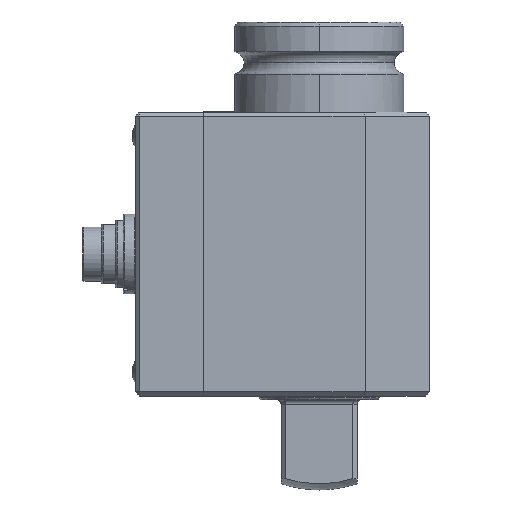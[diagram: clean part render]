
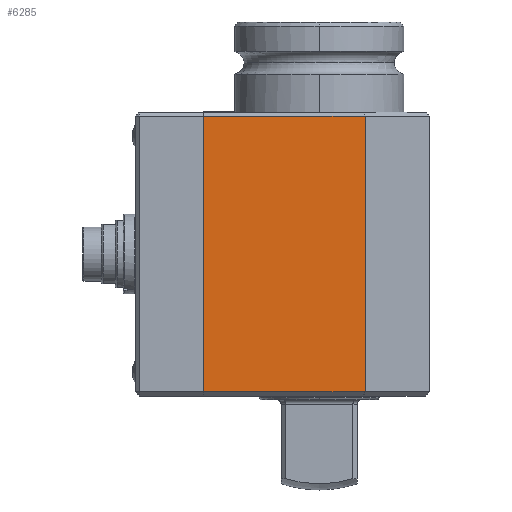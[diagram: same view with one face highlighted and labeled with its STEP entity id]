
A CAD part, left-side view. The second image highlights one B-rep face of the part: STEP entity #6285.
In plain terms, the highlighted planar face has unit normal (-1, 0, 0).
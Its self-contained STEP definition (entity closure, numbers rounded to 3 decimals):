
#323 = CARTESIAN_POINT ( 'NONE',  ( -27.5, 56.5, -70. ) ) ;
#1013 = VERTEX_POINT ( 'NONE', #323 ) ;
#1070 = LINE ( 'NONE', #2018, #8248 ) ;
#1168 = EDGE_LOOP ( 'NONE', ( #5067, #8330, #8088, #5577 ) ) ;
#1178 = CARTESIAN_POINT ( 'NONE',  ( -27.5, 16., -71. ) ) ;
#1564 = VECTOR ( 'NONE', #6688, 1000. ) ;
#1711 = LINE ( 'NONE', #4957, #1564 ) ;
#2018 = CARTESIAN_POINT ( 'NONE',  ( -27.5, 56.5, -1. ) ) ;
#2719 = VECTOR ( 'NONE', #5514, 1000. ) ;
#3007 = VERTEX_POINT ( 'NONE', #7119 ) ;
#3187 = AXIS2_PLACEMENT_3D ( 'NONE', #3670, #3720, #3790 ) ;
#3670 = CARTESIAN_POINT ( 'NONE',  ( -27.5, 16., -71. ) ) ;
#3720 = DIRECTION ( 'NONE',  ( -1., 0., 0. ) ) ;
#3732 = PLANE ( 'NONE',  #3187 ) ;
#3790 = DIRECTION ( 'NONE',  ( 0., -1., 0. ) ) ;
#4957 = CARTESIAN_POINT ( 'NONE',  ( -27.5, 56.5, -71. ) ) ;
#5067 = ORIENTED_EDGE ( 'NONE', *, *, #6575, .F. ) ;
#5514 = DIRECTION ( 'NONE',  ( 0., 0., 1. ) ) ;
#5574 = LINE ( 'NONE', #1178, #2719 ) ;
#5577 = ORIENTED_EDGE ( 'NONE', *, *, #8739, .T. ) ;
#6285 = ADVANCED_FACE ( 'NONE', ( #6767 ), #3732, .T. ) ;
#6372 = CARTESIAN_POINT ( 'NONE',  ( -27.5, 16., -70. ) ) ;
#6448 = CARTESIAN_POINT ( 'NONE',  ( -27.5, 16., -1. ) ) ;
#6575 = EDGE_CURVE ( 'NONE', #1013, #3007, #1711, .T. ) ;
#6688 = DIRECTION ( 'NONE',  ( 0., 0., 1. ) ) ;
#6767 = FACE_OUTER_BOUND ( 'NONE', #1168, .T. ) ;
#6801 = DIRECTION ( 'NONE',  ( 0., 1., 0. ) ) ;
#7119 = CARTESIAN_POINT ( 'NONE',  ( -27.5, 56.5, -1. ) ) ;
#7734 = VECTOR ( 'NONE', #9360, 1000. ) ;
#8088 = ORIENTED_EDGE ( 'NONE', *, *, #9029, .T. ) ;
#8144 = EDGE_CURVE ( 'NONE', #1013, #10253, #10051, .T. ) ;
#8248 = VECTOR ( 'NONE', #6801, 1000. ) ;
#8330 = ORIENTED_EDGE ( 'NONE', *, *, #8144, .T. ) ;
#8499 = VERTEX_POINT ( 'NONE', #6448 ) ;
#8739 = EDGE_CURVE ( 'NONE', #8499, #3007, #1070, .T. ) ;
#9029 = EDGE_CURVE ( 'NONE', #10253, #8499, #5574, .T. ) ;
#9360 = DIRECTION ( 'NONE',  ( 0., -1., 0. ) ) ;
#10051 = LINE ( 'NONE', #6372, #7734 ) ;
#10253 = VERTEX_POINT ( 'NONE', #10383 ) ;
#10383 = CARTESIAN_POINT ( 'NONE',  ( -27.5, 16., -70. ) ) ;
